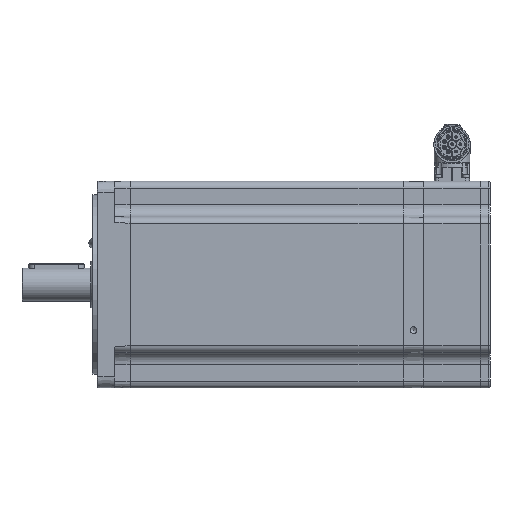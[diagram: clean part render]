
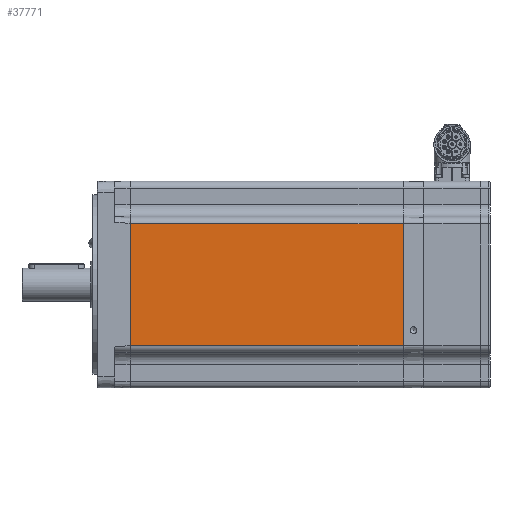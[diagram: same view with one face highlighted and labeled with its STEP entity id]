
A CAD part, left-side view. The second image highlights one B-rep face of the part: STEP entity #37771.
In plain terms, the highlighted planar face has unit normal (-1, 0, 0) as drawn and (0, -1, 0) by its records, which use the part's own axes.
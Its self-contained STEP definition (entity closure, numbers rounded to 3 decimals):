
#2289=LINE('',#65996,#3954);
#2310=LINE('',#66094,#3975);
#2313=LINE('',#66127,#3978);
#2314=LINE('',#66128,#3979);
#3954=VECTOR('',#46718,1000.);
#3975=VECTOR('',#46795,1000.);
#3978=VECTOR('',#46834,1000.);
#3979=VECTOR('',#46835,1000.);
#12676=ORIENTED_EDGE('',*,*,#16431,.F.);
#12677=ORIENTED_EDGE('',*,*,#16492,.T.);
#12678=ORIENTED_EDGE('',*,*,#16479,.T.);
#12679=ORIENTED_EDGE('',*,*,#16493,.T.);
#16431=EDGE_CURVE('',#18995,#18996,#2289,.T.);
#16479=EDGE_CURVE('',#19044,#19043,#2310,.T.);
#16492=EDGE_CURVE('',#18995,#19044,#2313,.T.);
#16493=EDGE_CURVE('',#19043,#18996,#2314,.F.);
#18995=VERTEX_POINT('',#65997);
#18996=VERTEX_POINT('',#65998);
#19043=VERTEX_POINT('',#66093);
#19044=VERTEX_POINT('',#66095);
#22271=EDGE_LOOP('',(#12676,#12677,#12678,#12679));
#24437=FACE_BOUND('',#22271,.T.);
#25218=PLANE('',#40291);
#37771=ADVANCED_FACE('',(#24437),#25218,.T.);
#40291=AXIS2_PLACEMENT_3D('',#66126,#46832,#46833);
#46718=DIRECTION('',(0.,0.,-1.));
#46795=DIRECTION('',(0.,0.,-1.));
#46832=DIRECTION('',(0.,-1.,0.));
#46833=DIRECTION('',(0.,0.,-1.));
#46834=DIRECTION('',(-1.,0.,0.));
#46835=DIRECTION('',(-1.,0.,0.));
#65996=CARTESIAN_POINT('',(-1.,-75.,75.));
#65997=CARTESIAN_POINT('',(-1.,-75.,44.));
#65998=CARTESIAN_POINT('',(-1.,-75.,-44.));
#66093=CARTESIAN_POINT('',(-199.,-75.,-44.));
#66094=CARTESIAN_POINT('',(-199.,-75.,75.));
#66095=CARTESIAN_POINT('',(-199.,-75.,44.));
#66126=CARTESIAN_POINT('',(-300.,-75.,75.));
#66127=CARTESIAN_POINT('',(-300.,-75.,44.));
#66128=CARTESIAN_POINT('',(0.,-75.,-44.));
